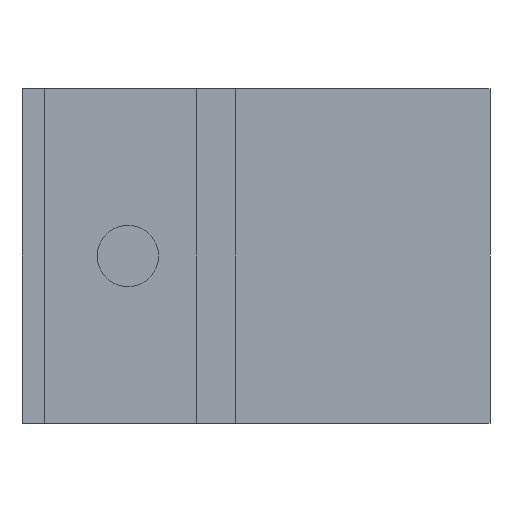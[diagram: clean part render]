
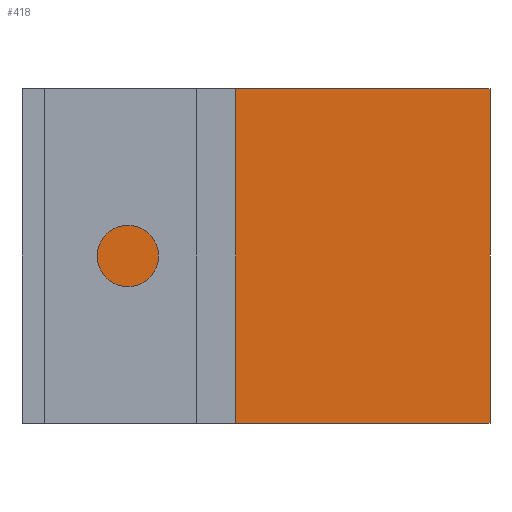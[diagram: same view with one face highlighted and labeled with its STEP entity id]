
A CAD part, left-side view. The second image highlights one B-rep face of the part: STEP entity #418.
In plain terms, the highlighted planar face has unit normal (-1, 0, 0).
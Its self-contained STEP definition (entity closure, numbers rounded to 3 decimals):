
#33=FACE_OUTER_BOUND('',#57,.T.);
#57=EDGE_LOOP('',(#323,#324,#325,#326));
#99=LINE('',#639,#154);
#101=LINE('',#643,#156);
#102=LINE('',#645,#157);
#103=LINE('',#646,#158);
#154=VECTOR('',#524,10.);
#156=VECTOR('',#528,10.);
#157=VECTOR('',#529,10.);
#158=VECTOR('',#530,10.);
#202=VERTEX_POINT('',#636);
#203=VERTEX_POINT('',#638);
#204=VERTEX_POINT('',#642);
#205=VERTEX_POINT('',#644);
#249=EDGE_CURVE('',#202,#203,#99,.T.);
#251=EDGE_CURVE('',#202,#204,#101,.T.);
#252=EDGE_CURVE('',#204,#205,#102,.T.);
#253=EDGE_CURVE('',#205,#203,#103,.T.);
#323=ORIENTED_EDGE('',*,*,#251,.T.);
#324=ORIENTED_EDGE('',*,*,#252,.T.);
#325=ORIENTED_EDGE('',*,*,#253,.T.);
#326=ORIENTED_EDGE('',*,*,#249,.F.);
#397=PLANE('',#455);
#418=ADVANCED_FACE('',(#33),#397,.F.);
#455=AXIS2_PLACEMENT_3D('',#641,#526,#527);
#524=DIRECTION('',(0.,0.,1.));
#526=DIRECTION('center_axis',(1.,0.,0.));
#527=DIRECTION('ref_axis',(0.,1.,0.));
#528=DIRECTION('',(0.,-1.,0.));
#529=DIRECTION('',(0.,0.,1.));
#530=DIRECTION('',(0.,1.,0.));
#636=CARTESIAN_POINT('',(75.8,0.,0.));
#638=CARTESIAN_POINT('',(75.8,0.,30.));
#639=CARTESIAN_POINT('',(75.8,0.,0.));
#641=CARTESIAN_POINT('Origin',(75.8,-40.,0.));
#642=CARTESIAN_POINT('',(75.8,-40.,0.));
#643=CARTESIAN_POINT('',(75.8,0.,0.));
#644=CARTESIAN_POINT('',(75.8,-40.,30.));
#645=CARTESIAN_POINT('',(75.8,-40.,0.));
#646=CARTESIAN_POINT('',(75.8,0.,30.));
